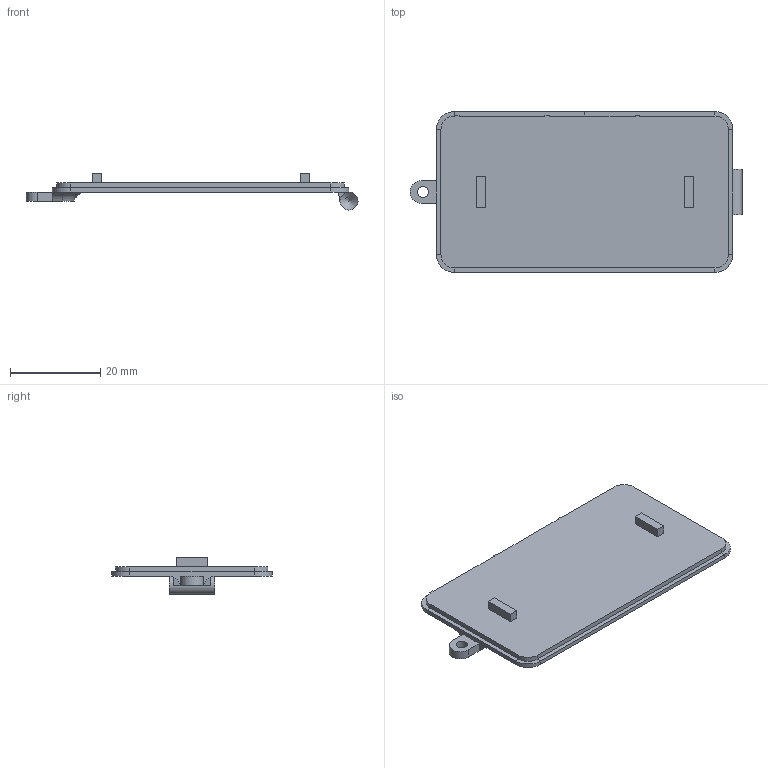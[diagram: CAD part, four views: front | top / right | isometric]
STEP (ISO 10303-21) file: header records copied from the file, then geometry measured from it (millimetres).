
FILE_DESCRIPTION (( 'STEP AP203' ), '1' );
FILE_NAME ('v4portinhola.STEP', '2026-08-19T20:49:51', ( '' ), ( '' ), 'SwSTEP 2.0', 'SolidWorks 2024', '' );
FILE_SCHEMA (( 'CONFIG_CONTROL_DESIGN' ));
Length unit declared in the file: millimetre
Products named in the file (1): v4portinhola
Bounding box: 73.45 x 35.6 x 8 mm (x, y, z)
Volume: 4739.1 mm3; surface area: 5430.4 mm2
Topology: 3 solids, 3 shells, 68 faces, 164 edges, 102 vertices
Faces by surface type: plane 52, cylinder 13, cone 2, torus 1
Full cylindrical faces by diameter (mm): 2.5 x1, 4 x1
Entity records: 1977 total; most frequent: CARTESIAN_POINT 327, DIRECTION 324, ORIENTED_EDGE 316, EDGE_CURVE 158, LINE 130, VECTOR 130, VERTEX_POINT 100, AXIS2_PLACEMENT_3D 97
